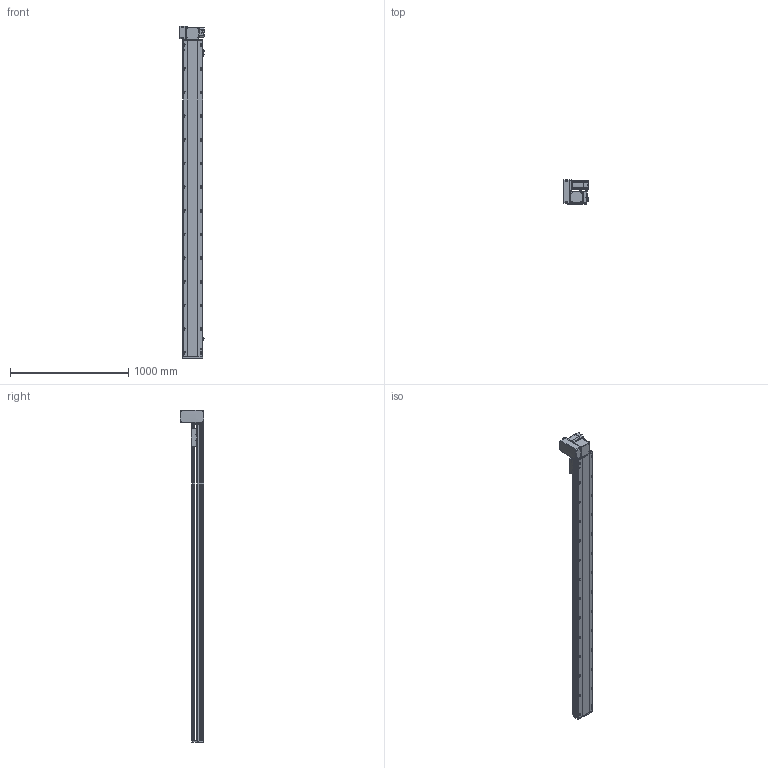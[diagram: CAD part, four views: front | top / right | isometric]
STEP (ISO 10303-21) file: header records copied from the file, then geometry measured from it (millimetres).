
FILE_DESCRIPTION (( 'STEP AP214' ), '1' );
FILE_NAME ('RTB17S-XX-2400-LW-M75-C4.STEP', '2025-12-12T01:16:23', ( '' ), ( '' ), 'SwSTEP 2.0', 'SolidWorks 2018', '' );
FILE_SCHEMA (( 'AUTOMOTIVE_DESIGN' ));
Length unit declared in the file: millimetre
Products named in the file (15): 750W萇儂^RTB17S-XX-XX-LW-M75-C4; RTB22S-GY-017P^RTB17S-LW-々湍釱蚾饜-750W_RTB17S-XX-XX-LW-M75-C4; RTH13-BL-012覜茼え俋离^RTB17S-賑釱_RTB17S-XX-XX-LW-M75-C4; RTB17S-L-007奻裔^RTB17S-XX-XX-LW-M75-C4; EE672^RTB17S-XX-XX-LW-M75-C4; RTB17S-XX-2400-LW-M75-C4; RTB17S-LW-々湍釱蚾饜-750W^RTB17S-XX-XX-LW-M75-C4; RTB17S-L-001-耜醱啣^RTB17S-XX-XX-LW-M75-C4; RTB22S-GY-005P^RTB17S-LW-々湍釱蚾饜-750W_RTB17S-XX-XX-LW-M75-C4; RTB17-R-011菁釱^RTB17S-XX-XX-LW-M75-C4; RTB17S-L-014-T20-P75--々湍釱^RTB17S-LW-々湍釱蚾饜-750W_RTB17S-XX-XX-LW-M75-C4; RTB17S-L-004-賑釱^RTB17S-賑釱_RTB17S-XX-XX-LW-M75-C4; RTB22S-GY-008-M75--萇儂啣^RTB17S-LW-々湍釱蚾饜-750W_RTB17S-XX-XX-LW-M75-C4; RTB22S-GY-018P^RTB17S-LW-々湍釱蚾饜-750W_RTB17S-XX-XX-LW-M75-C4; RTB17S-賑釱^RTB17S-XX-XX-LW-M75-C4
Assembly tree (17 placements, depth 3):
  RTB17S-XX-2400-LW-M75-C4
    RTB17-R-011菁釱^RTB17S-XX-XX-LW-M75-C4
    EE672^RTB17S-XX-XX-LW-M75-C4  x3
    RTB17S-L-001-耜醱啣^RTB17S-XX-XX-LW-M75-C4
    RTB17S-賑釱^RTB17S-XX-XX-LW-M75-C4
      RTB17S-L-004-賑釱^RTB17S-賑釱_RTB17S-XX-XX-LW-M75-C4
      RTH13-BL-012覜茼え俋离^RTB17S-賑釱_RTB17S-XX-XX-LW-M75-C4
    RTB17S-L-007奻裔^RTB17S-XX-XX-LW-M75-C4
    750W萇儂^RTB17S-XX-XX-LW-M75-C4
    RTB17S-LW-々湍釱蚾饜-750W^RTB17S-XX-XX-LW-M75-C4
      RTB17S-L-014-T20-P75--々湍釱^RTB17S-LW-々湍釱蚾饜-750W_RTB17S-XX-XX-LW-M75-C4
      RTB22S-GY-005P^RTB17S-LW-々湍釱蚾饜-750W_RTB17S-XX-XX-LW-M75-C4
      RTB22S-GY-017P^RTB17S-LW-々湍釱蚾饜-750W_RTB17S-XX-XX-LW-M75-C4  x2
      RTB22S-GY-008-M75--萇儂啣^RTB17S-LW-々湍釱蚾饜-750W_RTB17S-XX-XX-LW-M75-C4
      RTB22S-GY-018P^RTB17S-LW-々湍釱蚾饜-750W_RTB17S-XX-XX-LW-M75-C4
Bounding box: 210.4 x 201.5 x 2807.5 mm (x, y, z)
Volume: 20955382.6 mm3; surface area: 3789680.6 mm2
Topology: 17 solids, 17 shells, 2201 faces, 6160 edges, 3986 vertices
Faces by surface type: plane 984, cylinder 801, bspline 294, cone 110, sphere 8, torus 4
Entity records: 63478 total; most frequent: CARTESIAN_POINT 18824, ORIENTED_EDGE 9164, DIRECTION 8492, EDGE_CURVE 4582, AXIS2_PLACEMENT_3D 3006, VERTEX_POINT 2990, VECTOR 2480, LINE 2480
